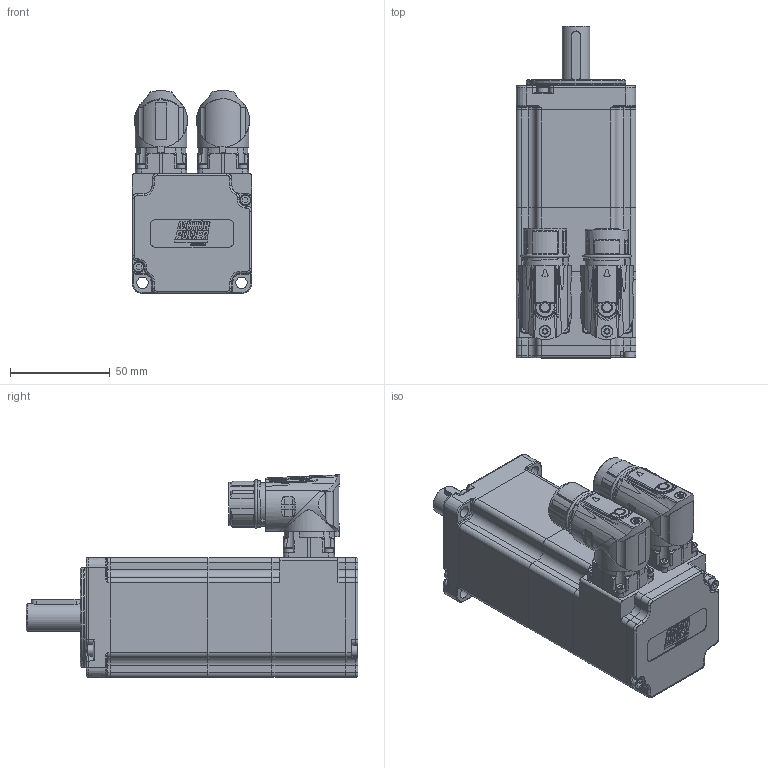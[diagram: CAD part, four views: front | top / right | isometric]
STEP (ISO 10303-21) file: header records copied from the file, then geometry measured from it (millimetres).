
FILE_DESCRIPTION(/* description */ ('Unknown'),/* implementation_level */ '2;1');
FILE_NAME(/* name */ 'TC4-60.2A.XX.X.3.M1.1.1.C2.39.00 Q0C134',/* time_stamp */ '2026-03-03T15:45:40+01:00',/* author */ ('Unknown'),/* organization */ ('Unknown'),/* preprocessor_version */ 'ST-DEVELOPER v19.4',/* originating_system */ 'Solid Edge',/* authorisation */ 'Unknown');
FILE_SCHEMA (('AUTOMOTIVE_DESIGN {1 0 10303 214 3 1 1}'));
Products named in the file (14): Q0C134 2A FRENO M1 VUOTO; 005911000171; 005911000491; 003103040224; 005113000400; 003107003285; 005119001310; 003155002235; 005911000495; 003151003163; 003251040722; 007117000456; 003003200333; 007117000454
Assembly tree (24 placements, depth 2):
  Q0C134 2A FRENO M1 VUOTO
    005911000171  x8
    005911000491  x2
    003103040224
    005113000400
    003107003285
    005119001310
    003155002235
    005911000495  x4
    003151003163
    003251040722
    007117000456
    003003200333
    007117000454
Bounding box: 60 x 166 x 101.5 mm (x, y, z)
Volume: 220830.5 mm3; surface area: 127566.5 mm2
Topology: 26 solids, 26 shells, 2218 faces, 5607 edges, 3615 vertices
Faces by surface type: plane 977, cylinder 563, bspline 268, cone 266, torus 108, sphere 36
Full cylindrical faces by diameter (mm): 0.5 x1, 1 x21, 1.2 x17, 1.4 x4, 2 x4, 2.013 x20, 2.459 x23, 2.5 x9, 2.7 x4, 2.8 x4, 3 x18, 3.2 x1, 3.5 x6, 4.134 x1, 4.5 x2, 4.7 x8, 5 x8, 5.5 x8, 5.8 x5, 5.9 x2, 6 x1, 6.8 x1, 9.99 x1, 10 x1, 12 x1, 14 x2, 14.99 x1, 15 x1, 15.2 x1, 17.4 x3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
Entity records: 81345 total; most frequent: CARTESIAN_POINT 21604, ORIENTED_EDGE 9530, DIRECTION 8952, EDGE_CURVE 4765, AXIS2_PLACEMENT_3D 3378, VERTEX_POINT 3290, FACE_BOUND 2691, EDGE_LOOP 2671
